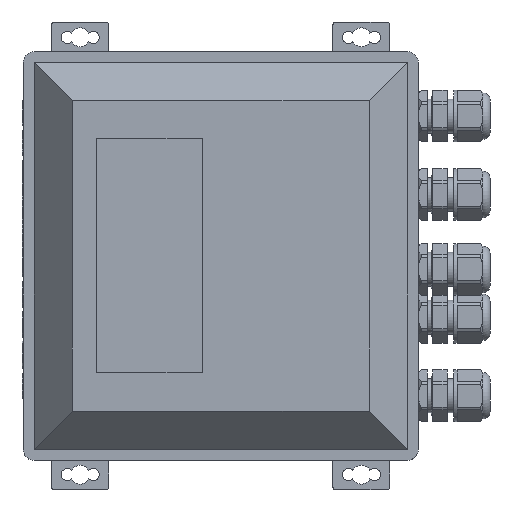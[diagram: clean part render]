
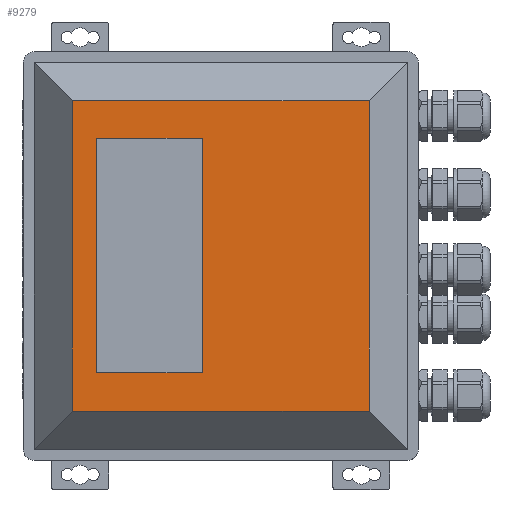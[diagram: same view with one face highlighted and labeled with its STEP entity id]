
A CAD part, top view. The second image highlights one B-rep face of the part: STEP entity #9279.
In plain terms, the highlighted planar face has unit normal (0, 0, 1).
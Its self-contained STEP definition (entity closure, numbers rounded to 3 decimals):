
#1818=DIRECTION('',(0.,1.,0.));
#1819=VECTOR('',#1818,114.);
#1820=CARTESIAN_POINT('',(-54.5,-57.099,40.));
#1821=LINE('',#1820,#1819);
#1822=DIRECTION('',(1.,0.,0.));
#1823=VECTOR('',#1822,109.);
#1824=CARTESIAN_POINT('',(-54.5,56.901,40.));
#1825=LINE('',#1824,#1823);
#1826=DIRECTION('',(0.,1.,0.));
#1827=VECTOR('',#1826,114.);
#1828=CARTESIAN_POINT('',(54.5,-57.099,40.));
#1829=LINE('',#1828,#1827);
#1830=DIRECTION('',(1.,0.,0.));
#1831=VECTOR('',#1830,109.);
#1832=CARTESIAN_POINT('',(-54.5,-57.099,40.));
#1833=LINE('',#1832,#1831);
#1834=DIRECTION('',(0.,1.,0.));
#1835=VECTOR('',#1834,86.);
#1836=CARTESIAN_POINT('',(-6.806,-43.,40.));
#1837=LINE('',#1836,#1835);
#1838=DIRECTION('',(-1.,0.,0.));
#1839=VECTOR('',#1838,38.863);
#1840=CARTESIAN_POINT('',(-6.806,43.,40.));
#1841=LINE('',#1840,#1839);
#1842=DIRECTION('',(0.,-1.,0.));
#1843=VECTOR('',#1842,86.);
#1844=CARTESIAN_POINT('',(-45.669,43.,40.));
#1845=LINE('',#1844,#1843);
#1846=DIRECTION('',(1.,0.,0.));
#1847=VECTOR('',#1846,38.863);
#1848=CARTESIAN_POINT('',(-45.669,-43.,40.));
#1849=LINE('',#1848,#1847);
#6197=CARTESIAN_POINT('',(-54.5,-57.099,40.));
#6198=CARTESIAN_POINT('',(-54.5,56.901,40.));
#6199=VERTEX_POINT('',#6197);
#6200=VERTEX_POINT('',#6198);
#6201=CARTESIAN_POINT('',(54.5,-57.099,40.));
#6202=CARTESIAN_POINT('',(54.5,56.901,40.));
#6203=VERTEX_POINT('',#6201);
#6204=VERTEX_POINT('',#6202);
#6461=CARTESIAN_POINT('',(-6.806,-43.,40.));
#6462=CARTESIAN_POINT('',(-6.806,43.,40.));
#6463=VERTEX_POINT('',#6461);
#6464=VERTEX_POINT('',#6462);
#6465=CARTESIAN_POINT('',(-45.669,43.,40.));
#6466=VERTEX_POINT('',#6465);
#6467=CARTESIAN_POINT('',(-45.669,-43.,40.));
#6468=VERTEX_POINT('',#6467);
#9255=CARTESIAN_POINT('',(0.,0.,40.));
#9256=DIRECTION('',(0.,0.,1.));
#9257=DIRECTION('',(1.,0.,0.));
#9258=AXIS2_PLACEMENT_3D('',#9255,#9256,#9257);
#9259=PLANE('',#9258);
#9261=ORIENTED_EDGE('',*,*,#9260,.T.);
#9263=ORIENTED_EDGE('',*,*,#9262,.T.);
#9264=ORIENTED_EDGE('',*,*,#9245,.F.);
#9266=ORIENTED_EDGE('',*,*,#9265,.F.);
#9267=EDGE_LOOP('',(#9261,#9263,#9264,#9266));
#9268=FACE_OUTER_BOUND('',#9267,.F.);
#9270=ORIENTED_EDGE('',*,*,#9269,.T.);
#9272=ORIENTED_EDGE('',*,*,#9271,.T.);
#9274=ORIENTED_EDGE('',*,*,#9273,.T.);
#9276=ORIENTED_EDGE('',*,*,#9275,.T.);
#9277=EDGE_LOOP('',(#9270,#9272,#9274,#9276));
#9278=FACE_BOUND('',#9277,.F.);
#9279=ADVANCED_FACE('',(#9268,#9278),#9259,.T.);
#9245=EDGE_CURVE('',#6203,#6204,#1829,.T.);
#9260=EDGE_CURVE('',#6199,#6200,#1821,.T.);
#9262=EDGE_CURVE('',#6200,#6204,#1825,.T.);
#9265=EDGE_CURVE('',#6199,#6203,#1833,.T.);
#9269=EDGE_CURVE('',#6463,#6464,#1837,.T.);
#9271=EDGE_CURVE('',#6464,#6466,#1841,.T.);
#9273=EDGE_CURVE('',#6466,#6468,#1845,.T.);
#9275=EDGE_CURVE('',#6468,#6463,#1849,.T.);
